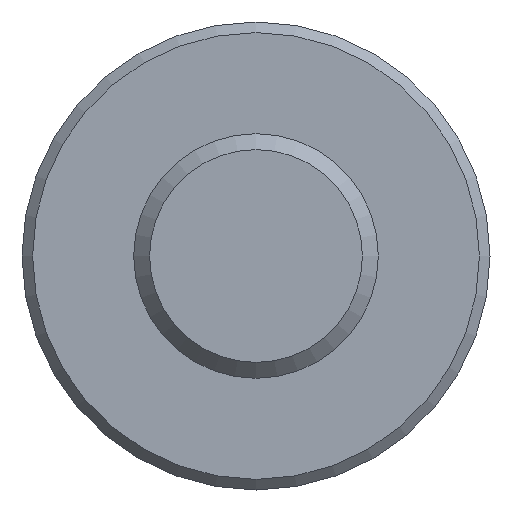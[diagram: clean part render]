
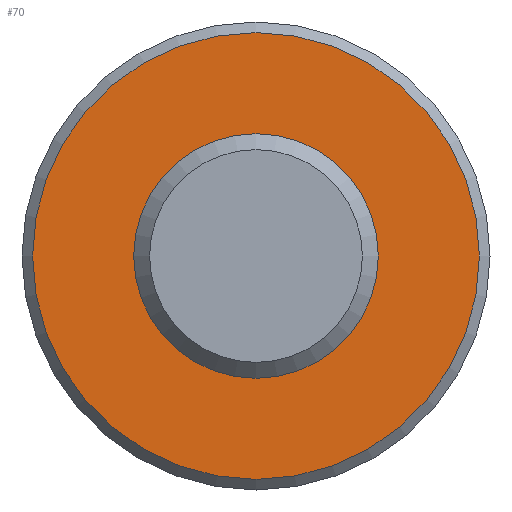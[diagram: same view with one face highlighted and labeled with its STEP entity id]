
A CAD part, front view. The second image highlights one B-rep face of the part: STEP entity #70.
In plain terms, the highlighted planar face has unit normal (0, -1, 0).
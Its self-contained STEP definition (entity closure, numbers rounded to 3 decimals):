
#37 = DIRECTION ( 'NONE',  ( 0., 0., 1. ) ) ;
#38 = DIRECTION ( 'NONE',  ( 0., 0., 1. ) ) ;
#45 = DIRECTION ( 'NONE',  ( 0., -1., 0. ) ) ;
#56 = VERTEX_POINT ( 'NONE', #218 ) ;
#70 = ADVANCED_FACE ( 'NONE', ( #553, #176 ), #348, .F. ) ;
#74 = VERTEX_POINT ( 'NONE', #442 ) ;
#83 = CIRCLE ( 'NONE', #504, 2.1 ) ;
#98 = EDGE_CURVE ( 'NONE', #74, #74, #381, .T. ) ;
#136 = DIRECTION ( 'NONE',  ( 0., 0., -1. ) ) ;
#140 = EDGE_LOOP ( 'NONE', ( #185 ) ) ;
#176 = FACE_BOUND ( 'NONE', #140, .T. ) ;
#185 = ORIENTED_EDGE ( 'NONE', *, *, #98, .F. ) ;
#218 = CARTESIAN_POINT ( 'NONE',  ( 0., 7.25, 2.1 ) ) ;
#223 = CARTESIAN_POINT ( 'NONE',  ( 0., 7.25, 0. ) ) ;
#348 = PLANE ( 'NONE',  #564 ) ;
#350 = ORIENTED_EDGE ( 'NONE', *, *, #574, .T. ) ;
#381 = CIRCLE ( 'NONE', #590, 1.15 ) ;
#393 = CARTESIAN_POINT ( 'NONE',  ( -2.2, 7.25, 0. ) ) ;
#419 = EDGE_LOOP ( 'NONE', ( #350 ) ) ;
#442 = CARTESIAN_POINT ( 'NONE',  ( 0., 7.25, -1.15 ) ) ;
#443 = DIRECTION ( 'NONE',  ( 0., 1., 0. ) ) ;
#504 = AXIS2_PLACEMENT_3D ( 'NONE', #507, #45, #37 ) ;
#507 = CARTESIAN_POINT ( 'NONE',  ( 0., 7.25, 0. ) ) ;
#549 = DIRECTION ( 'NONE',  ( 0., -1., 0. ) ) ;
#553 = FACE_OUTER_BOUND ( 'NONE', #419, .T. ) ;
#564 = AXIS2_PLACEMENT_3D ( 'NONE', #393, #443, #38 ) ;
#574 = EDGE_CURVE ( 'NONE', #56, #56, #83, .T. ) ;
#590 = AXIS2_PLACEMENT_3D ( 'NONE', #223, #549, #136 ) ;
